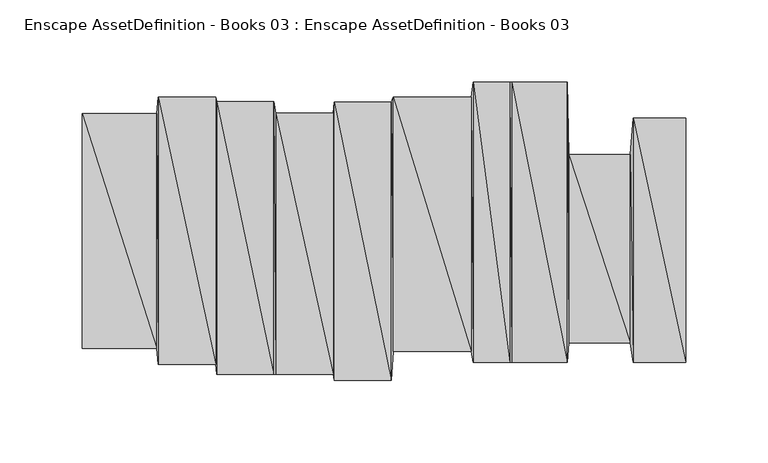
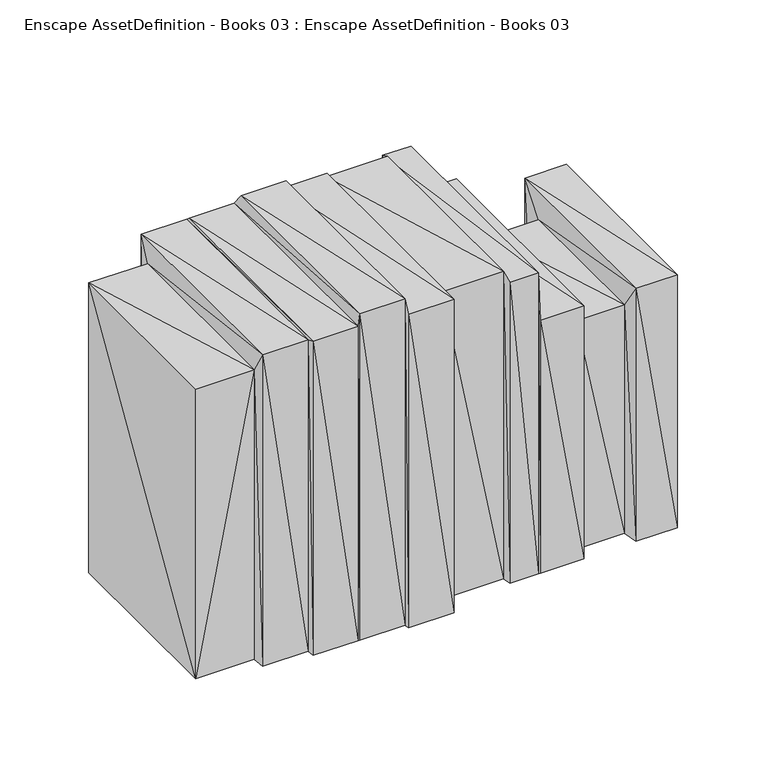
"""IFC4 building model written with IfcOpenShell, lengths in millimetres: geographic element geometry, Enscape AssetDefinition - Books 03 : Enscape AssetDefinition - Books 03."""

from ifc_helpers import new_model, si_unit, origin, place, context, project, spatial, faceted_brep, source, transform, mapped, element, save


def enscape_assetdefinition_books_03_enscape_assetdefinition_3bd942de(model_context):
    return source(origin(), model_context, "Body", "Brep", [
        faceted_brep([(-183.880657, 72.1375346, 236.8974537), (-183.880657, -70.9984303, 236.8974537), (-138.4955496, -70.9984303, 236.8974537), (-183.880657, -70.9984303, 0.0), (-138.4955496, 72.1375346, 236.8974537), (-183.880657, 72.1375346, 0.0), (-138.4955496, -70.9984303, 0.0), (-137.5154555, -80.7373151, 254.4940412), (-137.5154555, -80.7373151, 0.0), (-138.4955496, 72.1375346, 0.0), (-137.5154555, 82.1384415, 254.4940412), (-137.5154555, 82.1384415, 0.0), (-102.5742963, 82.1384415, 0.0), (-102.5742963, -80.7373151, 0.0), (-102.5742963, -80.7373151, 254.4940412), (-102.5742963, 82.1384415, 254.4940412), (-102.0012349, 79.2971849, 0.0), (-102.0012349, 79.2971849, 256.8992674), (-102.0012349, -86.8318602, 0.0), (-102.0012349, -86.8318602, 256.8992674), (-67.3060939, -86.8318602, 256.8992674), (-67.3060939, 79.2971849, 256.8992674), (-67.3060939, 79.2971849, 0.0), (-67.3060939, -86.8318602, 0.0), (-65.9999773, -86.8318602, 266.9001818), (-65.9999773, -86.8318602, 0.0), (-65.9999773, 72.1375346, 266.9001818), (-65.9999773, 72.1375346, 0.0), (-31.0588125, 72.1375346, 0.0), (-31.0588125, -86.8318602, 0.0), (-31.0588125, -86.8318602, 266.9001818), (-31.0588125, 72.1375346, 266.9001818), (-30.4057542, 79.1381747, 0.0), (-30.4057542, 79.1381747, 256.4822435), (-30.4057542, -90.7102153, 0.0), (-30.4057542, -90.7102153, 256.4822435), (4.535411, -90.7102153, 256.4822435), (4.535411, 79.1381747, 256.4822435), (4.535411, 79.1381747, 0.0), (4.535411, -90.7102153, 0.0), (5.5155, -72.9986131, 251.3887882), (5.5155, -72.9986131, 0.0), (5.5155, 82.1384415, 251.3887882), (5.5155, 82.1384415, 0.0), (53.1918183, 82.1384415, 0.0), (53.1918183, -72.9986131, 0.0), (53.1918183, -72.9986131, 251.3887882), (53.1918183, 82.1384415, 251.3887882), (54.4979349, 91.262266, 0.0), (54.4979349, 91.262266, 246.0832894), (54.4979349, -79.6782225, 0.0), (54.4979349, -79.6782225, 246.0832894), (76.5739381, -79.6782225, 246.0832894), (76.5739381, 91.262266, 246.0832894), (76.5739381, 91.262266, 0.0), (76.5739381, -79.6782225, 0.0), (77.9060572, -79.6782225, 206.8947405), (78.0160651, -79.6782225, 0.0), (77.9060572, 91.262266, 206.8947405), (78.0160651, 91.262266, 0.0), (111.64511, 91.262266, 0.0), (111.64511, -79.6782225, 0.0), (111.64511, -79.6782225, 206.8947405), (111.64511, 91.262266, 206.8947405), (112.625204, 47.162272, 0.0), (112.625204, 47.162272, 186.8929267), (112.625204, -67.6861331, 0.0), (112.625204, -67.6861331, 186.8929267), (149.8525739, -67.6861331, 186.8929267), (149.8525739, 47.162272, 186.8929267), (149.8525739, 47.162272, 0.0), (149.8525739, -67.6861331, 0.0), (151.8117487, -79.5642063, 206.8947405), (151.8117487, -79.5642063, 0.0), (151.8117487, 69.1462606, 206.8947405), (151.8117487, 69.1462606, 0.0), (183.8606447, 69.1462606, 0.0), (183.8606447, -79.5642063, 0.0), (183.8606447, -79.5642063, 206.8947405), (183.8606447, 69.1462606, 206.8947405)], [[[0, 1, 2]], [[2, 1, 3]], [[1, 0, 3]], [[0, 2, 4]], [[3, 0, 5]], [[4, 5, 0]], [[6, 3, 5]], [[2, 3, 6]], [[4, 2, 7]], [[2, 6, 8]], [[2, 8, 7]], [[4, 9, 5]], [[4, 7, 10]], [[10, 9, 4]], [[6, 5, 9]], [[6, 9, 11]], [[6, 11, 8]], [[8, 11, 12]], [[7, 8, 13]], [[8, 12, 13]], [[10, 7, 14]], [[7, 13, 14]], [[10, 11, 9]], [[10, 14, 15]], [[15, 11, 10]], [[15, 12, 11]], [[13, 12, 16]], [[17, 16, 12]], [[17, 12, 15]], [[14, 13, 18]], [[13, 16, 18]], [[15, 14, 19]], [[14, 18, 19]], [[15, 19, 17]], [[17, 19, 20]], [[17, 20, 21]], [[21, 16, 17]], [[18, 16, 22]], [[21, 22, 16]], [[19, 18, 23]], [[18, 22, 23]], [[19, 23, 20]], [[21, 20, 24]], [[20, 23, 25]], [[20, 25, 24]], [[21, 24, 26]], [[26, 22, 21]], [[23, 22, 27]], [[26, 27, 22]], [[23, 27, 25]], [[25, 27, 28]], [[24, 25, 29]], [[25, 28, 29]], [[26, 24, 30]], [[24, 29, 30]], [[26, 30, 31]], [[31, 27, 26]], [[31, 28, 27]], [[29, 28, 32]], [[33, 32, 28]], [[33, 28, 31]], [[30, 29, 34]], [[29, 32, 34]], [[31, 30, 35]], [[30, 34, 35]], [[31, 35, 33]], [[33, 35, 36]], [[33, 36, 37]], [[37, 32, 33]], [[34, 32, 38]], [[37, 38, 32]], [[35, 34, 39]], [[34, 38, 39]], [[35, 39, 36]], [[37, 36, 40]], [[36, 39, 41]], [[36, 41, 40]], [[37, 40, 42]], [[42, 38, 37]], [[39, 38, 43]], [[42, 43, 38]], [[39, 43, 41]], [[41, 43, 44]], [[40, 41, 45]], [[41, 44, 45]], [[42, 40, 46]], [[40, 45, 46]], [[42, 46, 47]], [[47, 43, 42]], [[47, 44, 43]], [[45, 44, 48]], [[49, 48, 44]], [[49, 44, 47]], [[46, 45, 50]], [[45, 48, 50]], [[47, 46, 51]], [[46, 50, 51]], [[47, 51, 49]], [[49, 51, 52]], [[49, 52, 53]], [[53, 48, 49]], [[50, 48, 54]], [[53, 54, 48]], [[51, 50, 55]], [[50, 54, 55]], [[51, 55, 52]], [[53, 52, 56]], [[52, 55, 57]], [[52, 57, 56]], [[53, 56, 58]], [[58, 54, 53]], [[55, 54, 59]], [[58, 59, 54]], [[55, 59, 57]], [[57, 59, 60]], [[56, 57, 61]], [[57, 60, 61]], [[58, 56, 62]], [[56, 61, 62]], [[63, 59, 58]], [[58, 62, 63]], [[63, 60, 59]], [[61, 60, 64]], [[65, 64, 60]], [[65, 60, 63]], [[62, 61, 66]], [[61, 64, 66]], [[63, 62, 67]], [[62, 66, 67]], [[63, 67, 65]], [[65, 67, 68]], [[65, 68, 69]], [[69, 64, 65]], [[66, 64, 70]], [[69, 70, 64]], [[67, 66, 71]], [[66, 70, 71]], [[67, 71, 68]], [[69, 68, 72]], [[68, 71, 73]], [[68, 73, 72]], [[69, 72, 74]], [[74, 70, 69]], [[71, 70, 75]], [[74, 75, 70]], [[71, 75, 73]], [[73, 75, 76]], [[72, 73, 77]], [[73, 76, 77]], [[74, 72, 78]], [[72, 77, 78]], [[74, 79, 76]], [[74, 76, 75]], [[74, 78, 79]], [[79, 78, 76]], [[76, 78, 77]]]),
    ])


if __name__ == "__main__":
    model = new_model("IFC4")
    model_context = context("Model", 3, world=origin())
    ifc_project = project(units=[si_unit("LENGTHUNIT", "METRE", prefix="MILLI")], contexts=[model_context])
    site = spatial("IfcSite", under=ifc_project)
    building = spatial("IfcBuilding", under=site)
    placement = place(None, origin())
    enscape_assetdefinition_books_03_enscape_assetdefinition_shape = enscape_assetdefinition_books_03_enscape_assetdefinition_3bd942de(model_context)
    element("IfcGeographicElement", 1, ObjectType="Enscape AssetDefinition - Books 03 : Enscape AssetDefinition - Books 03", at=placement, inside=building, context=model_context, shape_type="MappedRepresentation", body=[
        mapped(enscape_assetdefinition_books_03_enscape_assetdefinition_shape, transform((0.0, 0.0, 0.0), x_axis=(1.0, 0.0, 0.0), y_axis=(0.0, 1.0, 0.0), z_axis=(0.0, 0.0, 1.0))),
    ])
    save(model, "model.ifc")
